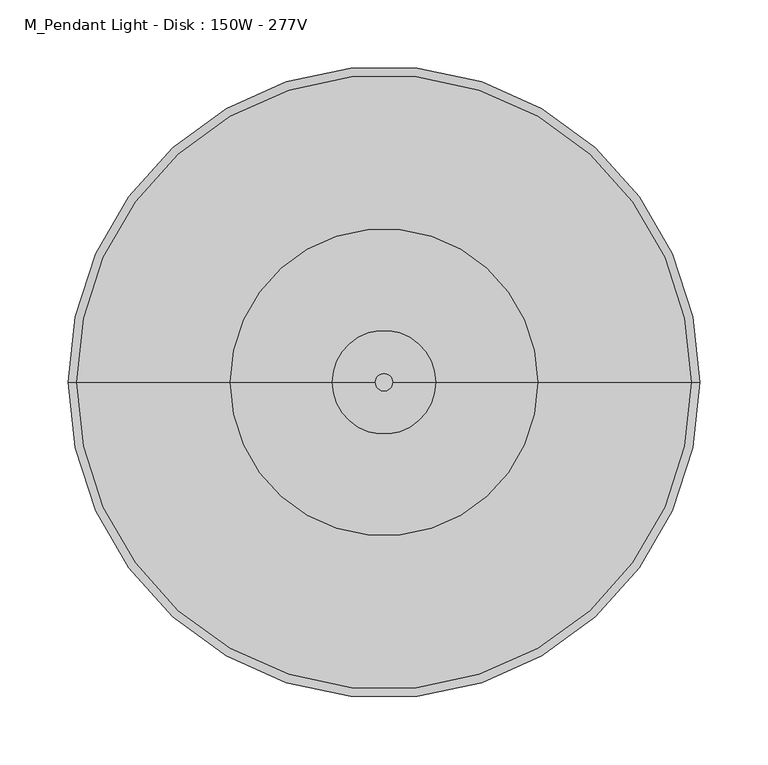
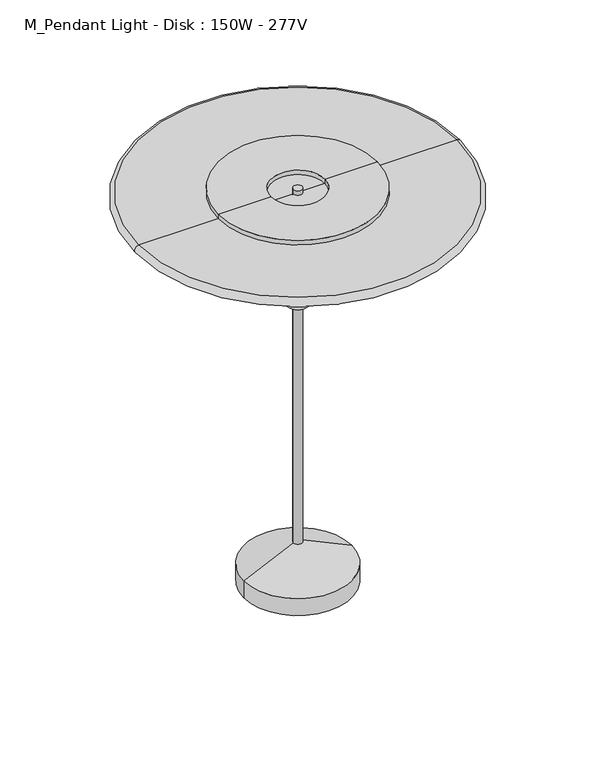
"""IFC4 building model written with IfcOpenShell, lengths in millimetres: light fixture geometry, M_Pendant Light - Disk : 150W - 277V."""

from ifc_helpers import new_model, si_unit, point, frame, origin, origin_with_axes, place, context, project, spatial, polyline, circle_curve, ellipse_curve, trimmed, source, transform, mapped, element, save
from ifc_brep_helpers import plane_surface, cylinder_surface, revolved_surface, advanced_brep


def m_pendant_light_disk_150w_277v_c7fc852b(model_context):
    return source(origin(), model_context, "Body", "AdvancedBrep", [
        advanced_brep(
        [(-6.35, 0.0, 587.3), (6.35, 0.0, 587.3), (-76.2, 0.0, 0.0), (76.2, 0.0, 0.0), (-6.35, 0.0, 58.1421875), (6.35, 0.0, 58.1421875), (76.2, 0.0, 25.4), (-76.2, 0.0, 25.4)],
        [
            (0, 1, circle_curve(frame((0.0, 0.0, 587.3), z_axis=(0.0, 0.0, 1.0), x_axis=(1.0, 0.0, 0.0)), 6.35)),
            (1, 0, circle_curve(frame((0.0, 0.0, 587.3), z_axis=(0.0, 0.0, 1.0), x_axis=(1.0, 0.0, 0.0)), 6.35)),
            (2, 3, circle_curve(frame((0.0, 0.0, 0.0), z_axis=(0.0, 0.0, -1.0), x_axis=(-1.0, 0.0, 0.0)), 76.2)),
            (3, 2, circle_curve(frame((0.0, 0.0, 0.0), z_axis=(0.0, 0.0, -1.0), x_axis=(-1.0, 0.0, 0.0)), 76.2)),
            (0, 4),
            (4, 5, circle_curve(frame((0.0, 0.0, 58.1421875), z_axis=(0.0, 0.0, 1.0), x_axis=(1.0, 0.0, 0.0)), 6.35)),
            (5, 1),
            (5, 4, circle_curve(frame((0.0, 0.0, 58.1421875), z_axis=(0.0, 0.0, 1.0), x_axis=(1.0, 0.0, 0.0)), 6.35)),
            (6, 7, circle_curve(frame((0.0, 0.0, 25.4), z_axis=(0.0, 0.0, 1.0), x_axis=(-1.0, 0.0, 0.0)), 76.2)),
            (7, 4),
            (5, 6),
            (7, 6, circle_curve(frame((0.0, 0.0, 25.4), z_axis=(0.0, 0.0, 1.0), x_axis=(-1.0, 0.0, 0.0)), 76.2)),
            (2, 7),
            (6, 3),
        ],
        [
            plane_surface(frame((6.35, 0.0, 587.3), z_axis=(0.0, 0.0, 1.0), x_axis=(0.0, 1.0, 0.0))),
            plane_surface(frame((6.35, 0.0, 0.0), z_axis=(0.0, 0.0, -1.0), x_axis=(0.0, -1.0, 0.0))),
            cylinder_surface(origin_with_axes(), 6.35),
            revolved_surface(polyline([(0.0, 0.0, 61.11875), (-76.2, 0.0, 25.4)]), (0.0, 0.0, 38.8135772), (0.0, 0.0, -1.0)),
            cylinder_surface(frame((0.0, 0.0, 38.8135772), z_axis=(0.0, 0.0, -1.0), x_axis=(-1.0, 0.0, 0.0)), 76.2),
        ],
        [
            (0, [[1, 2]]),
            (1, [[3, 4]]),
            (2, [[-1, 5, 6, 7]]),
            (2, [[-2, -7, 8, -5]]),
            (3, [[9, 10, -8, 11]]),
            (3, [[12, -11, -6, -10]]),
            (4, [[-3, 13, -9, 14]]),
            (4, [[-4, -14, -12, -13]]),
        ],
    ),
        advanced_brep(
        [(0.0, 0.0, 415.85), (-15.875, 0.0, 415.85), (15.875, 0.0, 415.85), (38.1, 0.0, 568.25), (-38.1, 0.0, 568.25), (0.0, 0.0, 568.25), (38.1, 0.0, 587.3), (-38.1, 0.0, 587.3), (112.5, 0.0, 587.3), (-112.5, 0.0, 587.3), (112.5, 0.0, 551.58125), (-112.5, 0.0, 551.58125), (15.875, 0.0, 551.58125), (-15.875, 0.0, 551.58125)],
        [
            (0, 1),
            (1, 2, circle_curve(frame((0.0, 0.0, 415.85), z_axis=(0.0, 0.0, -1.0), x_axis=(-1.0, 0.0, 0.0)), 15.875)),
            (2, 0),
            (2, 1, circle_curve(frame((0.0, 0.0, 415.85), z_axis=(0.0, 0.0, -1.0), x_axis=(-1.0, 0.0, 0.0)), 15.875)),
            (3, 4, circle_curve(frame((0.0, 0.0, 568.25), z_axis=(0.0, 0.0, 1.0), x_axis=(-1.0, 0.0, 0.0)), 38.1)),
            (4, 5),
            (5, 3),
            (4, 3, circle_curve(frame((0.0, 0.0, 568.25), z_axis=(0.0, 0.0, 1.0), x_axis=(-1.0, 0.0, 0.0)), 38.1)),
            (6, 7, circle_curve(frame((0.0, 0.0, 587.3), z_axis=(0.0, 0.0, 1.0), x_axis=(-1.0, 0.0, 0.0)), 38.1)),
            (7, 4),
            (3, 6),
            (7, 6, circle_curve(frame((0.0, 0.0, 587.3), z_axis=(0.0, 0.0, 1.0), x_axis=(-1.0, 0.0, 0.0)), 38.1)),
            (8, 9, circle_curve(frame((0.0, 0.0, 587.3), z_axis=(0.0, 0.0, 1.0), x_axis=(-1.0, 0.0, 0.0)), 112.5)),
            (9, 7),
            (6, 8),
            (9, 8, circle_curve(frame((0.0, 0.0, 587.3), z_axis=(0.0, 0.0, 1.0), x_axis=(-1.0, 0.0, 0.0)), 112.5)),
            (10, 11, circle_curve(frame((0.0, 0.0, 551.58125), z_axis=(0.0, 0.0, 1.0), x_axis=(-1.0, 0.0, 0.0)), 112.5)),
            (11, 9),
            (8, 10),
            (11, 10, circle_curve(frame((0.0, 0.0, 551.58125), z_axis=(0.0, 0.0, 1.0), x_axis=(-1.0, 0.0, 0.0)), 112.5)),
            (12, 13, circle_curve(frame((0.0, 0.0, 551.58125), z_axis=(0.0, 0.0, 1.0), x_axis=(-1.0, 0.0, 0.0)), 15.875)),
            (13, 11),
            (10, 12),
            (13, 12, circle_curve(frame((0.0, 0.0, 551.58125), z_axis=(0.0, 0.0, 1.0), x_axis=(-1.0, 0.0, 0.0)), 15.875)),
            (1, 13),
            (12, 2),
        ],
        [
            plane_surface(frame((0.0, 0.0, 415.85), z_axis=(0.0, 0.0, -1.0), x_axis=(-1.0, 0.0, 0.0))),
            plane_surface(frame((0.0, 0.0, 568.25), z_axis=(0.0, 0.0, 1.0), x_axis=(-1.0, 0.0, 0.0))),
            revolved_surface(polyline([(-38.1, 0.0, 568.25), (-38.1, 0.0, 587.3)]), (0.0, 0.0, 685.6182877), (0.0, 0.0, -1.0)),
            plane_surface(frame((0.0, 0.0, 587.3), z_axis=(0.0, 0.0, 1.0), x_axis=(-1.0, 0.0, 0.0))),
            cylinder_surface(frame((0.0, 0.0, 685.6182877), z_axis=(0.0, 0.0, -1.0), x_axis=(-1.0, 0.0, 0.0)), 112.5),
            plane_surface(frame((0.0, 0.0, 551.58125), z_axis=(0.0, 0.0, -1.0), x_axis=(-1.0, 0.0, 0.0))),
            cylinder_surface(frame((0.0, 0.0, 685.6182877), z_axis=(0.0, 0.0, -1.0), x_axis=(-1.0, 0.0, 0.0)), 15.875),
        ],
        [
            (0, [[1, 2, 3]]),
            (0, [[-3, 4, -1]]),
            (1, [[5, 6, 7]]),
            (1, [[8, -7, -6]]),
            (2, [[9, 10, -5, 11]]),
            (2, [[12, -11, -8, -10]]),
            (3, [[13, 14, -9, 15]]),
            (3, [[16, -15, -12, -14]]),
            (4, [[17, 18, -13, 19]]),
            (4, [[20, -19, -16, -18]]),
            (5, [[21, 22, -17, 23]]),
            (5, [[24, -23, -20, -22]]),
            (6, [[-2, 25, -21, 26]]),
            (6, [[-4, -26, -24, -25]]),
        ],
    ),
        advanced_brep(
        [(0.0, 0.0, 568.25), (-225.0, 0.0, 568.25), (225.0, 0.0, 568.25), (225.0, 0.0, 580.95), (-225.0, 0.0, 580.95), (0.0, 0.0, 580.95)],
        [
            (0, 1),
            (1, 2, circle_curve(frame((0.0, 0.0, 568.25), z_axis=(0.0, 0.0, -1.0), x_axis=(-1.0, 0.0, 0.0)), 225.0)),
            (2, 0),
            (2, 1, circle_curve(frame((0.0, 0.0, 568.25), z_axis=(0.0, 0.0, -1.0), x_axis=(-1.0, 0.0, 0.0)), 225.0)),
            (3, 4, circle_curve(frame((0.0, 0.0, 580.95), z_axis=(0.0, 0.0, 1.0), x_axis=(-1.0, 0.0, 0.0)), 225.0)),
            (4, 5),
            (5, 3),
            (4, 3, circle_curve(frame((0.0, 0.0, 580.95), z_axis=(0.0, 0.0, 1.0), x_axis=(-1.0, 0.0, 0.0)), 225.0)),
            (1, 4, circle_curve(frame((-225.0, 0.0, 574.6), z_axis=(0.0, 1.0, 0.0), x_axis=(1.0, 0.0, 0.0)), 6.35)),
            (3, 2, circle_curve(frame((225.0, 0.0, 574.6), z_axis=(0.0, 1.0, 0.0), x_axis=(-1.0, 0.0, 0.0)), 6.35)),
        ],
        [
            plane_surface(frame((0.0, 0.0, 568.25), z_axis=(0.0, 0.0, -1.0), x_axis=(-1.0, 0.0, 0.0))),
            plane_surface(frame((0.0, 0.0, 580.95), z_axis=(0.0, 0.0, 1.0), x_axis=(-1.0, 0.0, 0.0))),
            revolved_surface(trimmed(ellipse_curve(frame((-225.0, 0.0, 574.6), z_axis=(0.0, -1.0, 0.0), x_axis=(1.0, 0.0, 0.0)), 6.35, 6.35), [point((-225.0, 0.0, 580.95))], [point((-225.0, 0.0, 568.25))], True, "CARTESIAN"), (0.0, 0.0, 587.3), (0.0, 0.0, -1.0)),
        ],
        [
            (0, [[1, 2, 3]]),
            (0, [[-3, 4, -1]]),
            (1, [[5, 6, 7]]),
            (1, [[8, -7, -6]]),
            (2, [[-2, 9, -5, 10]]),
            (2, [[-4, -10, -8, -9]]),
        ],
    ),
    ])


if __name__ == "__main__":
    model = new_model("IFC4")
    model_context = context("Model", 3, world=origin())
    ifc_project = project(units=[si_unit("LENGTHUNIT", "METRE", prefix="MILLI")], contexts=[model_context])
    site = spatial("IfcSite", under=ifc_project)
    building = spatial("IfcBuilding", under=site)
    placement = place(None, origin())
    m_pendant_light_disk_150w_277v_shape = m_pendant_light_disk_150w_277v_c7fc852b(model_context)
    element("IfcLightFixture", 1, ObjectType="M_Pendant Light - Disk : 150W - 277V", at=placement, inside=building, context=model_context, shape_type="MappedRepresentation", body=[
        mapped(m_pendant_light_disk_150w_277v_shape, transform((0.0, 0.0, 0.0), x_axis=(1.0, 0.0, 0.0), y_axis=(0.0, 1.0, 0.0), z_axis=(0.0, 0.0, 1.0))),
    ])
    save(model, "model.ifc")
